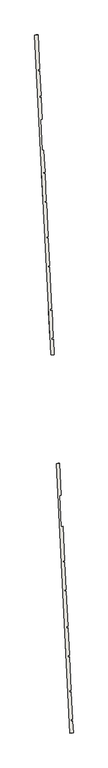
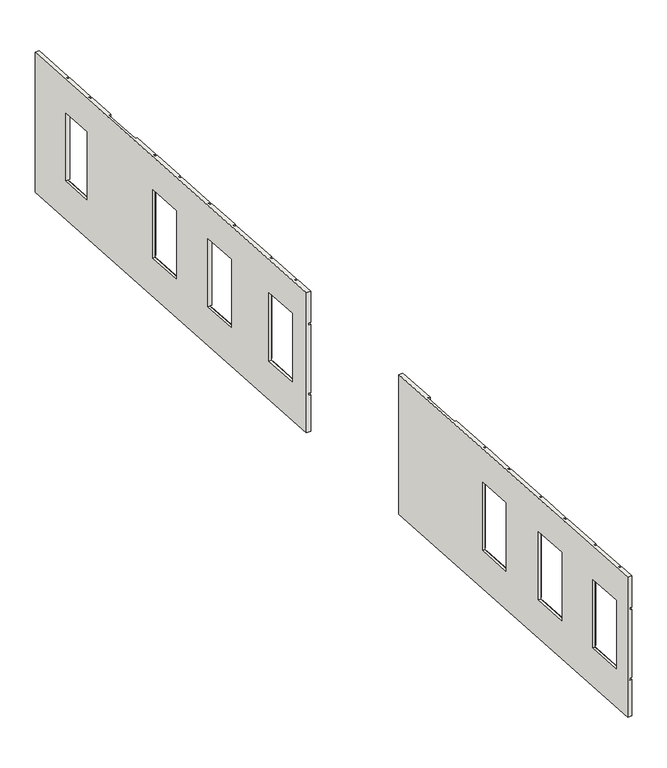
"""IFC4 building model written with IfcOpenShell, lengths in millimetres: wall geometry, kamposite6 : kamposite."""

from ifc_helpers import new_model, si_unit, origin, place, context, project, spatial, faceted_brep, source, transform, mapped, element, save


def wall_fe2dcc62(model_context):
    return source(origin(), model_context, "Body", "Brep", [
        faceted_brep([(13372.7715568, -13203.3324529, 16500.0), (13353.306831, -12820.9275904, 16500.0), (13353.306831, -12820.9275904, 17411.5733633), (13372.7715568, -13203.3324529, 17411.5733633), (13353.306831, -12820.9275904, 20000.0), (13372.7715568, -13203.3324529, 20000.0), (13372.7715568, -13203.3324529, 19220.5733633), (13353.306831, -12820.9275904, 19220.5733633), (13094.4833823, -7736.0706906, 20000.0), (13139.1735864, -8614.0564136, 20000.0), (13139.1735864, -8614.0564136, 19220.5733633), (13094.4833823, -7736.0706906, 19220.5733633), (13141.7153374, -8663.9917669, 20000.0), (13199.2035253, -9793.4072435, 20000.0), (13199.2035253, -9793.4072435, 19220.5733633), (13141.7153374, -8663.9917669, 19220.5733633), (13201.7452764, -9843.3425967, 20000.0), (13246.4354805, -10721.3283197, 20000.0), (13246.4354805, -10721.3283197, 19220.5733633), (13201.7452764, -9843.3425967, 19220.5733633), (13248.9772315, -10771.2636729, 20000.0), (13303.5331248, -11843.0711609, 20000.0), (13303.5331248, -11843.0711609, 19220.5733633), (13248.9772315, -10771.2636729, 19220.5733633), (13306.0748759, -11893.0065142, 20000.0), (13350.76508, -12770.9922372, 20000.0), (13350.76508, -12770.9922372, 19220.5733633), (13306.0748759, -11893.0065142, 19220.5733633), (13139.1735864, -8614.0564136, 16500.0), (13094.4833823, -7736.0706906, 16500.0), (13094.4833823, -7736.0706906, 17411.5733633), (13139.1735864, -8614.0564136, 17411.5733633), (13199.2035253, -9793.4072435, 16500.0), (13141.7153374, -8663.9917669, 16500.0), (13141.7153374, -8663.9917669, 17411.5733633), (13199.2035253, -9793.4072435, 17411.5733633), (13246.4354805, -10721.3283197, 16500.0), (13201.7452764, -9843.3425967, 16500.0), (13201.7452764, -9843.3425967, 17411.5733633), (13246.4354805, -10721.3283197, 17411.5733633), (13303.5331248, -11843.0711609, 16500.0), (13248.9772315, -10771.2636729, 16500.0), (13248.9772315, -10771.2636729, 17411.5733633), (13303.5331248, -11843.0711609, 17411.5733633), (13350.76508, -12770.9922372, 16500.0), (13306.0748759, -11893.0065142, 16500.0), (13306.0748759, -11893.0065142, 17411.5733633), (13350.76508, -12770.9922372, 17411.5733633), (13350.6602996, -12768.9337164, 19170.0), (13306.0748759, -11893.0065142, 19170.0), (13306.0748759, -11893.0065142, 19170.5733633), (13350.76508, -12770.9922372, 19170.5733633), (13350.76508, -12770.9922372, 17461.5733633), (13350.6602996, -12768.9337164, 17461.5733633), (13246.4354805, -10721.3283197, 19170.0), (13201.7452764, -9843.3425967, 19170.0), (13201.7452764, -9843.3425967, 19170.5733633), (13246.4354805, -10721.3283197, 19170.5733633), (13139.1735864, -8614.0564136, 19170.0), (13094.4833823, -7736.0706906, 19170.0), (13094.4833823, -7736.0706906, 19170.5733633), (13139.1735864, -8614.0564136, 19170.5733633), (12933.6170031, -4575.6827045, 16500.0), (12933.6170031, -4575.6827045, 17411.5733633), (12985.7398324, -5599.6901091, 17411.5733633), (12985.7398324, -5599.6901091, 16500.0), (12933.6170031, -4575.6827045, 19220.5733633), (12933.6170031, -4575.6827045, 20000.0), (12985.7398324, -5599.6901091, 20000.0), (12985.7398324, -5599.6901091, 19220.5733633), (12933.6170031, -4575.6827045, 17461.5733633), (12933.6170031, -4575.6827045, 19170.5733633), (12985.7398324, -5599.6901091, 19170.5733633), (12985.7398324, -5599.6901091, 17461.5733633), (13091.9416312, -7686.1353374, 17411.5733633), (13091.9416312, -7686.1353374, 16500.0), (13036.3776474, -6594.5228575, 16500.0), (13036.3776474, -6594.5228575, 17411.5733633), (13091.9416312, -7686.1353374, 20000.0), (13091.9416312, -7686.1353374, 19220.5733633), (13036.3776474, -6594.5228575, 19220.5733633), (13036.3776474, -6594.5228575, 20000.0), (13091.9416312, -7686.1353374, 19170.5733633), (13091.9416312, -7686.1353374, 17461.5733633), (13036.3776474, -6594.5228575, 17461.5733633), (13036.3776474, -6594.5228575, 19170.5733633), (13199.2035253, -9793.4072435, 19170.5733633), (13199.2035253, -9793.4072435, 17461.5733633), (13141.7153374, -8663.9917669, 17461.5733633), (13141.7153374, -8663.9917669, 19170.5733633), (13303.5331248, -11843.0711609, 19170.5733633), (13303.5331248, -11843.0711609, 17461.5733633), (13248.9772315, -10771.2636729, 17461.5733633), (13248.9772315, -10771.2636729, 19170.5733633), (13372.7715568, -13203.3324529, 19170.5733633), (13372.7715568, -13203.3324529, 17461.5733633), (13353.306831, -12820.9275904, 17461.5733633), (13353.306831, -12820.9275904, 19170.5733633), (12833.7462967, -4580.7662066, 20000.0), (12833.7462967, -4580.7662066, 16500.0), (13272.9008504, -13208.415955, 16500.0), (13272.9008504, -13208.415955, 20000.0), (13206.0547747, -11895.1550017, 19170.0), (13250.7895931, -12774.0172185, 19170.0), (13250.7895931, -12774.0172185, 17460.0), (13206.0547747, -11895.1550017, 17460.0), (13101.8429819, -9847.8055195, 19170.0), (13146.5778003, -10726.6677363, 19170.0), (13146.5778003, -10726.6677363, 17460.0), (13101.8429819, -9847.8055195, 17460.0), (12994.5810878, -7740.5336135, 19170.0), (13039.3159062, -8619.3958302, 19170.0), (13039.3159062, -8619.3958302, 17460.0), (12994.5810878, -7740.5336135, 17460.0), (13303.3714778, -12823.4693414, 20000.0), (13300.8297268, -12773.5339882, 20000.0), (13256.1395226, -11895.5482652, 20000.0), (13253.5977716, -11845.612912, 20000.0), (13199.0418783, -10773.805424, 20000.0), (13196.5001272, -10723.8700707, 20000.0), (13151.8099231, -9845.8843478, 20000.0), (13149.2681721, -9795.9489945, 20000.0), (13091.7799842, -8666.5335179, 20000.0), (13089.2382332, -8616.5981647, 20000.0), (13044.5480291, -7738.6124417, 20000.0), (13042.006278, -7688.6770885, 20000.0), (12986.4422941, -6597.0646086, 20000.0), (12935.8044792, -5602.2318601, 20000.0), (13322.8362036, -13205.874204, 17411.5733633), (13322.8362036, -13205.874204, 17461.5733633), (13322.8362036, -13205.874204, 19170.5733633), (13322.8362036, -13205.874204, 19220.5733633), (12935.8044792, -5602.2318601, 16500.0), (12986.4422941, -6597.0646086, 16500.0), (13042.006278, -7688.6770885, 16500.0), (13044.5480291, -7738.6124417, 16500.0), (13089.2382332, -8616.5981647, 16500.0), (13091.7799842, -8666.5335179, 16500.0), (13149.2681721, -9795.9489945, 16500.0), (13151.8099231, -9845.8843478, 16500.0), (13196.5001272, -10723.8700707, 16500.0), (13199.0418783, -10773.805424, 16500.0), (13253.5977716, -11845.612912, 16500.0), (13256.1395226, -11895.5482652, 16500.0), (13300.8297268, -12773.5339882, 16500.0), (13303.3714778, -12823.4693414, 16500.0), (12883.6816499, -4578.2244556, 19220.5733633), (12883.6816499, -4578.2244556, 19170.5733633), (12883.6816499, -4578.2244556, 17461.5733633), (12883.6816499, -4578.2244556, 17411.5733633), (13255.9901279, -11892.6132507, 17460.0), (13255.9901279, -11892.6132507, 19170.0), (13300.7249463, -12771.4754674, 17460.0), (13300.7249463, -12771.4754674, 17461.5733633), (13256.1395226, -11895.5482652, 19170.0), (13151.7783351, -9845.2637685, 17460.0), (13151.7783351, -9845.2637685, 19170.0), (13196.5131535, -10724.1259852, 17460.0), (13196.5131535, -10724.1259852, 19170.0), (13151.8099231, -9845.8843478, 19170.0), (13196.5001272, -10723.8700707, 19170.0), (13044.5164411, -7737.9918624, 17460.0), (13044.5164411, -7737.9918624, 19170.0), (13089.2512594, -8616.8540792, 17460.0), (13089.2512594, -8616.8540792, 19170.0), (13044.5480291, -7738.6124417, 19170.0), (13089.2382332, -8616.5981647, 19170.0), (13044.5480291, -7738.6124417, 19220.5733633), (13089.2382332, -8616.5981647, 19220.5733633), (13091.7799842, -8666.5335179, 19220.5733633), (13149.2681721, -9795.9489945, 19220.5733633), (13151.8099231, -9845.8843478, 19220.5733633), (13196.5001272, -10723.8700707, 19220.5733633), (13199.0418783, -10773.805424, 19220.5733633), (13253.5977716, -11845.612912, 19220.5733633), (13256.1395226, -11895.5482652, 19220.5733633), (13300.8297268, -12773.5339882, 19220.5733633), (13303.3714778, -12823.4693414, 19220.5733633), (13303.3714778, -12823.4693414, 19170.5733633), (13303.3714778, -12823.4693414, 17461.5733633), (13303.3714778, -12823.4693414, 17411.5733633), (13300.8297268, -12773.5339882, 17411.5733633), (13256.1395226, -11895.5482652, 17411.5733633), (13253.5977716, -11845.612912, 17411.5733633), (13199.0418783, -10773.805424, 17411.5733633), (13196.5001272, -10723.8700707, 17411.5733633), (13151.8099231, -9845.8843478, 17411.5733633), (13149.2681721, -9795.9489945, 17411.5733633), (13091.7799842, -8666.5335179, 17411.5733633), (13089.2382332, -8616.5981647, 17411.5733633), (13044.5480291, -7738.6124417, 17411.5733633), (13042.006278, -7688.6770885, 17411.5733633), (12986.4422941, -6597.0646086, 17411.5733633), (12935.8044792, -5602.2318601, 17411.5733633), (12935.8044792, -5602.2318601, 17461.5733633), (12935.8044792, -5602.2318601, 19170.5733633), (12935.8044792, -5602.2318601, 19220.5733633), (12986.4422941, -6597.0646086, 19220.5733633), (13042.006278, -7688.6770885, 19220.5733633), (13300.8297268, -12773.5339882, 17461.5733633), (13300.8297268, -12773.5339882, 19170.5733633), (13256.1395226, -11895.5482652, 19170.5733633), (13196.5001272, -10723.8700707, 19170.5733633), (13151.8099231, -9845.8843478, 19170.5733633), (13089.2382332, -8616.5981647, 19170.5733633), (13044.5480291, -7738.6124417, 19170.5733633), (13091.7799842, -8666.5335179, 19170.5733633), (13091.7799842, -8666.5335179, 17461.5733633), (13149.2681721, -9795.9489945, 17461.5733633), (13149.2681721, -9795.9489945, 19170.5733633), (13199.0418783, -10773.805424, 19170.5733633), (13199.0418783, -10773.805424, 17461.5733633), (13253.5977716, -11845.612912, 17461.5733633), (13253.5977716, -11845.612912, 19170.5733633), (13042.006278, -7688.6770885, 19170.5733633), (12986.4422941, -6597.0646086, 19170.5733633), (12986.4422941, -6597.0646086, 17461.5733633), (13042.006278, -7688.6770885, 17461.5733633)], [[[0, 1, 2, 3]], [[4, 5, 6, 7]], [[8, 9, 10, 11]], [[12, 13, 14, 15]], [[16, 17, 18, 19]], [[20, 21, 22, 23]], [[24, 25, 26, 27]], [[28, 29, 30, 31]], [[32, 33, 34, 35]], [[36, 37, 38, 39]], [[40, 41, 42, 43]], [[44, 45, 46, 47]], [[48, 49, 50, 51, 52, 53]], [[54, 55, 56, 57]], [[58, 59, 60, 61]], [[62, 63, 64, 65]], [[66, 67, 68, 69]], [[70, 71, 72, 73]], [[74, 75, 76, 77]], [[78, 79, 80, 81]], [[82, 83, 84, 85]], [[86, 87, 88, 89]], [[90, 91, 92, 93]], [[94, 95, 96, 97]], [[98, 99, 100, 101], [102, 103, 104, 105], [106, 107, 108, 109], [110, 111, 112, 113]], [[98, 101, 5, 4, 114, 115, 25, 24, 116, 117, 21, 20, 118, 119, 17, 16, 120, 121, 13, 12, 122, 123, 9, 8, 124, 125, 78, 81, 126, 127, 68, 67]], [[101, 100, 0, 3, 128, 129, 95, 94, 130, 131, 6, 5]], [[100, 99, 62, 65, 132, 133, 76, 75, 134, 135, 29, 28, 136, 137, 33, 32, 138, 139, 37, 36, 140, 141, 41, 40, 142, 143, 45, 44, 144, 145, 1, 0]], [[99, 98, 67, 66, 146, 147, 71, 70, 148, 149, 63, 62]], [[102, 105, 150, 151]], [[105, 104, 152, 150]], [[104, 103, 48, 53, 153, 152]], [[103, 102, 151, 154, 49, 48]], [[106, 109, 155, 156]], [[109, 108, 157, 155]], [[108, 107, 158, 157]], [[107, 106, 156, 159, 55, 54, 160, 158]], [[110, 113, 161, 162]], [[113, 112, 163, 161]], [[112, 111, 164, 163]], [[111, 110, 162, 165, 59, 58, 166, 164]], [[125, 124, 167, 168, 123, 122, 169, 170, 121, 120, 171, 172, 119, 118, 173, 174, 117, 116, 175, 176, 115, 114, 177, 131, 130, 178, 179, 129, 128, 180, 145, 144, 181, 182, 143, 142, 183, 184, 141, 140, 185, 186, 139, 138, 187, 188, 137, 136, 189, 190, 135, 134, 191, 192, 133, 132, 193, 149, 148, 194, 195, 147, 146, 196, 127, 126, 197, 198], [154, 151, 150, 152, 153, 199, 200, 201], [159, 156, 155, 157, 158, 160, 202, 203], [165, 162, 161, 163, 164, 166, 204, 205], [206, 207, 208, 209], [210, 211, 212, 213], [214, 215, 216, 217]], [[124, 8, 11, 167]], [[29, 135, 190, 30]], [[59, 165, 205, 60]], [[83, 82, 214, 217]], [[78, 125, 198, 79]], [[134, 75, 74, 191]], [[89, 88, 207, 206]], [[122, 12, 15, 169]], [[33, 137, 188, 34]], [[9, 123, 168, 10]], [[136, 28, 31, 189]], [[166, 58, 61, 204]], [[120, 16, 19, 171]], [[37, 139, 186, 38]], [[55, 159, 203, 56]], [[87, 86, 209, 208]], [[13, 121, 170, 14]], [[138, 32, 35, 187]], [[93, 92, 211, 210]], [[118, 20, 23, 173]], [[41, 141, 184, 42]], [[17, 119, 172, 18]], [[140, 36, 39, 185]], [[160, 54, 57, 202]], [[116, 24, 27, 175]], [[45, 143, 182, 46]], [[49, 154, 201, 50]], [[91, 90, 213, 212]], [[21, 117, 174, 22]], [[142, 40, 43, 183]], [[97, 96, 179, 178]], [[114, 4, 7, 177]], [[1, 145, 180, 2]], [[52, 51, 200, 199]], [[25, 115, 176, 26]], [[144, 44, 47, 181]], [[148, 70, 73, 194]], [[199, 153, 53, 52]], [[208, 207, 88, 87]], [[212, 211, 92, 91]], [[83, 217, 216, 84]], [[129, 179, 96, 95]], [[63, 149, 193, 64]], [[182, 181, 47, 46]], [[184, 183, 43, 42]], [[186, 185, 39, 38]], [[188, 187, 35, 34]], [[190, 189, 31, 30]], [[191, 74, 77, 192]], [[180, 128, 3, 2]], [[146, 66, 69, 196]], [[168, 167, 11, 10]], [[170, 169, 15, 14]], [[172, 171, 19, 18]], [[174, 173, 23, 22]], [[176, 175, 27, 26]], [[79, 198, 197, 80]], [[131, 177, 7, 6]], [[71, 147, 195, 72]], [[201, 200, 51, 50]], [[203, 202, 57, 56]], [[205, 204, 61, 60]], [[206, 209, 86, 89]], [[210, 213, 90, 93]], [[214, 82, 85, 215]], [[178, 130, 94, 97]], [[133, 192, 77, 76]], [[197, 126, 81, 80]], [[216, 215, 85, 84]], [[193, 132, 65, 64]], [[195, 194, 73, 72]], [[127, 196, 69, 68]]]),
        faceted_brep([(12334.7985206, 7188.7316375, 19160.0), (12294.384679, 7982.7037538, 19160.0), (12294.384679, 7982.7037538, 17461.5733633), (12294.2460013, 7985.4282216, 17461.5733633), (12294.2460013, 7985.4282216, 19170.5733633), (12334.8694038, 7187.3390638, 19170.5733633), (12334.8694038, 7187.3390638, 17461.5733633), (12334.7985206, 7188.7316375, 17461.5733633), (12731.730894, -609.4192918, 20000.0), (12756.4224718, -1094.5111191, 20000.0), (12756.4224718, -1094.5111191, 19220.5733633), (12731.730894, -609.4192918, 19220.5733633), (12684.4989388, 318.5017844, 20000.0), (12729.1891429, -559.4839386, 20000.0), (12729.1891429, -559.4839386, 19220.5733633), (12684.4989388, 318.5017844, 19220.5733633), (12614.0478206, 1702.5875625, 20000.0), (12681.9571878, 368.4371376, 20000.0), (12681.9571878, 368.4371376, 19220.5733633), (12614.0478206, 1702.5875625, 19220.5733633), (12566.8158655, 2630.5086387, 20000.0), (12611.5060696, 1752.5229157, 20000.0), (12611.5060696, 1752.5229157, 19220.5733633), (12566.8158655, 2630.5086387, 19220.5733633), (12509.0735025, 3764.9176506, 20000.0), (12564.2741144, 2680.4439919, 20000.0), (12564.2741144, 2680.4439919, 19220.5733633), (12509.0735025, 3764.9176506, 19220.5733633), (12461.8415473, 4692.8387269, 20000.0), (12506.5317514, 3814.8530039, 20000.0), (12506.5317514, 3814.8530039, 19220.5733633), (12461.8415473, 4692.8387269, 19220.5733633), (12235.5361304, 9138.844937, 20000.0), (12291.7042503, 8035.3635748, 20000.0), (12291.7042503, 8035.3635748, 19220.5733633), (12235.5361304, 9138.844937, 19220.5733633), (12294.2460013, 7985.4282216, 20000.0), (12334.8694038, 7187.3390638, 20000.0), (12334.8694038, 7187.3390638, 19220.5733633), (12294.2460013, 7985.4282216, 19220.5733633), (12756.4224718, -1094.5111191, 16500.0), (12731.730894, -609.4192918, 16500.0), (12731.730894, -609.4192918, 17411.5733633), (12756.4224718, -1094.5111191, 17411.5733633), (12729.1891429, -559.4839386, 16500.0), (12684.4989388, 318.5017844, 16500.0), (12684.4989388, 318.5017844, 17411.5733633), (12729.1891429, -559.4839386, 17411.5733633), (12681.9571878, 368.4371376, 16500.0), (12614.0478206, 1702.5875625, 16500.0), (12614.0478206, 1702.5875625, 17411.5733633), (12681.9571878, 368.4371376, 17411.5733633), (12611.5060696, 1752.5229157, 16500.0), (12566.8158655, 2630.5086387, 16500.0), (12566.8158655, 2630.5086387, 17411.5733633), (12611.5060696, 1752.5229157, 17411.5733633), (12564.2741144, 2680.4439919, 16500.0), (12509.0735025, 3764.9176506, 16500.0), (12509.0735025, 3764.9176506, 17411.5733633), (12564.2741144, 2680.4439919, 17411.5733633), (12506.5317514, 3814.8530039, 16500.0), (12461.8415473, 4692.8387269, 16500.0), (12461.8415473, 4692.8387269, 17411.5733633), (12506.5317514, 3814.8530039, 17411.5733633), (12291.7042503, 8035.3635748, 16500.0), (12235.5361304, 9138.844937, 16500.0), (12235.5361304, 9138.844937, 19170.5733633), (12291.7042503, 8035.3635748, 19170.5733633), (12291.7042503, 8035.3635748, 17461.5733633), (12235.558487, 9138.4057197, 17461.5733633), (12235.558487, 9138.4057197, 17411.5733633), (12291.7042503, 8035.3635748, 17411.5733633), (12334.8694038, 7187.3390638, 16500.0), (12294.2460013, 7985.4282216, 16500.0), (12294.2460013, 7985.4282216, 17411.5733633), (12334.8694038, 7187.3390638, 17411.5733633), (12729.1891429, -559.4839386, 19170.0), (12684.4989388, 318.5017844, 19170.0), (12684.4989388, 318.5017844, 19170.5733633), (12729.1891429, -559.4839386, 19170.5733633), (12611.5060696, 1752.5229157, 19170.0), (12567.0384526, 2626.1356827, 19170.0), (12567.0384526, 2626.1356827, 17461.5733633), (12566.8158655, 2630.5086387, 17461.5733633), (12566.8158655, 2630.5086387, 19170.5733633), (12611.5060696, 1752.5229157, 19170.5733633), (12506.5317514, 3814.8530039, 19170.0), (12461.8415473, 4692.8387269, 19170.0), (12461.8415473, 4692.8387269, 19170.5733633), (12506.5317514, 3814.8530039, 19170.5733633), (12756.4224718, -1094.5111191, 19170.5733633), (12756.4224718, -1094.5111191, 17461.5733633), (12731.730894, -609.4192918, 17461.5733633), (12731.730894, -609.4192918, 19170.5733633), (12681.9571878, 368.4371376, 19170.5733633), (12681.9571878, 368.4371376, 17461.5733633), (12614.0478206, 1702.5875625, 17461.5733633), (12614.0478206, 1702.5875625, 19170.5733633), (12564.2741144, 2680.4439919, 19170.5733633), (12564.2741144, 2680.4439919, 17461.5733633), (12509.0735025, 3764.9176506, 17461.5733633), (12509.0735025, 3764.9176506, 19170.5733633), (12459.2997963, 4742.7740801, 17411.5733633), (12459.2997963, 4742.7740801, 16500.0), (12423.674383, 5442.6725211, 16500.0), (12423.674383, 5442.6725211, 17411.5733633), (12459.2997963, 4742.7740801, 19170.5733633), (12459.2997963, 4742.7740801, 17461.5733633), (12423.674383, 5442.6725211, 17461.5733633), (12423.674383, 5442.6725211, 19170.5733633), (12459.2997963, 4742.7740801, 20000.0), (12459.2997963, 4742.7740801, 19220.5733633), (12423.674383, 5442.6725211, 19220.5733633), (12423.674383, 5442.6725211, 20000.0), (12337.4111548, 7137.4037105, 16500.0), (12337.4111548, 7137.4037105, 17411.5733633), (12373.0365681, 6437.5052695, 17411.5733633), (12373.0365681, 6437.5052695, 16500.0), (12337.4111548, 7137.4037105, 17461.5733633), (12337.4111548, 7137.4037105, 19170.5733633), (12373.0365681, 6437.5052695, 19170.5733633), (12373.0365681, 6437.5052695, 17461.5733633), (12337.4111548, 7137.4037105, 19220.5733633), (12337.4111548, 7137.4037105, 20000.0), (12373.0365681, 6437.5052695, 20000.0), (12373.0365681, 6437.5052695, 19220.5733633), (12135.665424, 9133.7614349, 20000.0), (12135.665424, 9133.7614349, 16500.0), (12656.5517653, -1099.5946212, 16500.0), (12656.5517653, -1099.5946212, 20000.0), (12194.5139726, 7977.6202517, 19160.0), (12234.9278142, 7183.6481354, 19160.0), (12234.9278142, 7183.6481354, 17460.0), (12194.5139726, 7977.6202517, 17460.0), (12584.5966444, 314.0388616, 19170.0), (12629.3314627, -564.8233551, 19170.0), (12629.3314627, -564.8233551, 17460.0), (12584.5966444, 314.0388616, 17460.0), (12467.1677461, 2621.0521806, 19170.0), (12511.9025645, 1742.1899638, 19170.0), (12511.9025645, 1742.1899638, 17460.0), (12467.1677461, 2621.0521806, 17460.0), (12361.9392529, 4688.375804, 19170.0), (12406.6740712, 3809.5135873, 19170.0), (12406.6740712, 3809.5135873, 17460.0), (12361.9392529, 4688.375804, 17460.0), (12681.7955408, -611.9610428, 20000.0), (12679.2537897, -562.0256896, 20000.0), (12634.5635856, 315.9600334, 20000.0), (12632.0218345, 365.8953866, 20000.0), (12564.1124674, 1700.0458114, 20000.0), (12561.5707163, 1749.9811647, 20000.0), (12516.8805122, 2627.9668877, 20000.0), (12514.3387612, 2677.9022409, 20000.0), (12459.1381493, 3762.3758996, 20000.0), (12456.5963982, 3812.3112528, 20000.0), (12411.9061941, 4690.2969758, 20000.0), (12409.364443, 4740.232329, 20000.0), (12373.7390298, 5440.13077, 20000.0), (12323.1012148, 6434.9635185, 20000.0), (12287.4758016, 7134.8619595, 20000.0), (12284.9340506, 7184.7973127, 20000.0), (12244.3106481, 7982.8864705, 20000.0), (12241.7688971, 8032.8218238, 20000.0), (12706.4871185, -1097.0528701, 17411.5733633), (12706.4871185, -1097.0528701, 17461.5733633), (12706.4871185, -1097.0528701, 19170.5733633), (12706.4871185, -1097.0528701, 19220.5733633), (12241.7688971, 8032.8218238, 16500.0), (12244.3106481, 7982.8864705, 16500.0), (12284.9340506, 7184.7973127, 16500.0), (12287.4758016, 7134.8619595, 16500.0), (12323.1012148, 6434.9635185, 16500.0), (12373.7390298, 5440.13077, 16500.0), (12409.364443, 4740.232329, 16500.0), (12411.9061941, 4690.2969758, 16500.0), (12456.5963982, 3812.3112528, 16500.0), (12459.1381493, 3762.3758996, 16500.0), (12514.3387612, 2677.9022409, 16500.0), (12516.8805122, 2627.9668877, 16500.0), (12561.5707163, 1749.9811647, 16500.0), (12564.1124674, 1700.0458114, 16500.0), (12632.0218345, 365.8953866, 16500.0), (12634.5635856, 315.9600334, 16500.0), (12679.2537897, -562.0256896, 16500.0), (12681.7955408, -611.9610428, 16500.0), (12185.6007772, 9136.3031859, 19220.5733633), (12185.6007772, 9136.3031859, 19170.5733633), (12244.4493258, 7980.1620027, 17460.0), (12244.4493258, 7980.1620027, 17461.5733633), (12284.8631674, 7186.1898865, 17460.0), (12284.8631674, 7186.1898865, 17461.5733633), (12634.5319976, 316.5806127, 17460.0), (12634.5319976, 316.5806127, 19170.0), (12679.266816, -562.2816041, 17460.0), (12679.266816, -562.2816041, 19170.0), (12634.5635856, 315.9600334, 19170.0), (12679.2537897, -562.0256896, 19170.0), (12517.1030993, 2623.5939316, 17460.0), (12517.1030993, 2623.5939316, 17461.5733633), (12561.8379177, 1744.7317149, 17460.0), (12561.8379177, 1744.7317149, 19170.0), (12561.5707163, 1749.9811647, 19170.0), (12411.8746061, 4690.9175551, 17460.0), (12411.8746061, 4690.9175551, 19170.0), (12456.6094245, 3812.0553383, 17460.0), (12456.6094245, 3812.0553383, 19170.0), (12411.9061941, 4690.2969758, 19170.0), (12456.5963982, 3812.3112528, 19170.0), (12634.5635856, 315.9600334, 19220.5733633), (12679.2537897, -562.0256896, 19220.5733633), (12681.7955408, -611.9610428, 19220.5733633), (12681.7955408, -611.9610428, 19170.5733633), (12681.7955408, -611.9610428, 17461.5733633), (12681.7955408, -611.9610428, 17411.5733633), (12679.2537897, -562.0256896, 17411.5733633), (12634.5635856, 315.9600334, 17411.5733633), (12632.0218345, 365.8953866, 17411.5733633), (12564.1124674, 1700.0458114, 17411.5733633), (12561.5707163, 1749.9811647, 17411.5733633), (12516.8805122, 2627.9668877, 17411.5733633), (12514.3387612, 2677.9022409, 17411.5733633), (12459.1381493, 3762.3758996, 17411.5733633), (12456.5963982, 3812.3112528, 17411.5733633), (12411.9061941, 4690.2969758, 17411.5733633), (12409.364443, 4740.232329, 17411.5733633), (12373.7390298, 5440.13077, 17411.5733633), (12323.1012148, 6434.9635185, 17411.5733633), (12287.4758016, 7134.8619595, 17411.5733633), (12284.9340506, 7184.7973127, 17411.5733633), (12244.3106481, 7982.8864705, 17411.5733633), (12241.7688971, 8032.8218238, 17411.5733633), (12185.6231337, 9135.8639687, 17411.5733633), (12185.6231337, 9135.8639687, 17461.5733633), (12241.7688971, 8032.8218238, 17461.5733633), (12241.7688971, 8032.8218238, 19170.5733633), (12241.7688971, 8032.8218238, 19220.5733633), (12244.3106481, 7982.8864705, 19220.5733633), (12284.9340506, 7184.7973127, 19220.5733633), (12287.4758016, 7134.8619595, 19220.5733633), (12323.1012148, 6434.9635185, 19220.5733633), (12373.7390298, 5440.13077, 19220.5733633), (12409.364443, 4740.232329, 19220.5733633), (12411.9061941, 4690.2969758, 19220.5733633), (12456.5963982, 3812.3112528, 19220.5733633), (12459.1381493, 3762.3758996, 19220.5733633), (12514.3387612, 2677.9022409, 19220.5733633), (12516.8805122, 2627.9668877, 19220.5733633), (12561.5707163, 1749.9811647, 19220.5733633), (12564.1124674, 1700.0458114, 19220.5733633), (12632.0218345, 365.8953866, 19220.5733633), (12679.2537897, -562.0256896, 19170.5733633), (12634.5635856, 315.9600334, 19170.5733633), (12561.5707163, 1749.9811647, 19170.5733633), (12516.8805122, 2627.9668877, 19170.5733633), (12516.8805122, 2627.9668877, 17461.5733633), (12456.5963982, 3812.3112528, 19170.5733633), (12411.9061941, 4690.2969758, 19170.5733633), (12632.0218345, 365.8953866, 17461.5733633), (12632.0218345, 365.8953866, 19170.5733633), (12564.1124674, 1700.0458114, 19170.5733633), (12564.1124674, 1700.0458114, 17461.5733633), (12514.3387612, 2677.9022409, 17461.5733633), (12514.3387612, 2677.9022409, 19170.5733633), (12459.1381493, 3762.3758996, 19170.5733633), (12459.1381493, 3762.3758996, 17461.5733633), (12409.364443, 4740.232329, 17461.5733633), (12409.364443, 4740.232329, 19170.5733633), (12373.7390298, 5440.13077, 19170.5733633), (12373.7390298, 5440.13077, 17461.5733633), (12244.3106481, 7982.8864705, 19170.5733633), (12244.3106481, 7982.8864705, 17461.5733633), (12284.9340506, 7184.7973127, 17461.5733633), (12284.9340506, 7184.7973127, 19170.5733633), (12287.4758016, 7134.8619595, 17461.5733633), (12323.1012148, 6434.9635185, 17461.5733633), (12323.1012148, 6434.9635185, 19170.5733633), (12287.4758016, 7134.8619595, 19170.5733633)], [[[0, 1, 2, 3, 4, 5, 6, 7]], [[8, 9, 10, 11]], [[12, 13, 14, 15]], [[16, 17, 18, 19]], [[20, 21, 22, 23]], [[24, 25, 26, 27]], [[28, 29, 30, 31]], [[32, 33, 34, 35]], [[36, 37, 38, 39]], [[40, 41, 42, 43]], [[44, 45, 46, 47]], [[48, 49, 50, 51]], [[52, 53, 54, 55]], [[56, 57, 58, 59]], [[60, 61, 62, 63]], [[64, 65, 66, 67, 68, 69, 70, 71]], [[72, 73, 74, 75]], [[76, 77, 78, 79]], [[80, 81, 82, 83, 84, 85]], [[86, 87, 88, 89]], [[90, 91, 92, 93]], [[94, 95, 96, 97]], [[98, 99, 100, 101]], [[102, 103, 104, 105]], [[106, 107, 108, 109]], [[110, 111, 112, 113]], [[114, 115, 116, 117]], [[118, 119, 120, 121]], [[122, 123, 124, 125]], [[126, 127, 128, 129], [130, 131, 132, 133], [134, 135, 136, 137], [138, 139, 140, 141], [142, 143, 144, 145]], [[126, 129, 9, 8, 146, 147, 13, 12, 148, 149, 17, 16, 150, 151, 21, 20, 152, 153, 25, 24, 154, 155, 29, 28, 156, 157, 110, 113, 158, 159, 124, 123, 160, 161, 37, 36, 162, 163, 33, 32]], [[129, 128, 40, 43, 164, 165, 91, 90, 166, 167, 10, 9]], [[128, 127, 65, 64, 168, 169, 73, 72, 170, 171, 114, 117, 172, 173, 104, 103, 174, 175, 61, 60, 176, 177, 57, 56, 178, 179, 53, 52, 180, 181, 49, 48, 182, 183, 45, 44, 184, 185, 41, 40]], [[127, 126, 32, 35, 186, 187, 66, 65]], [[130, 133, 188, 189, 2, 1]], [[133, 132, 190, 188]], [[132, 131, 0, 7, 191, 190]], [[1, 0, 131, 130]], [[134, 137, 192, 193]], [[137, 136, 194, 192]], [[136, 135, 195, 194]], [[135, 134, 193, 196, 77, 76, 197, 195]], [[138, 141, 198, 199, 82, 81]], [[141, 140, 200, 198]], [[140, 139, 201, 200]], [[139, 138, 81, 80, 202, 201]], [[142, 145, 203, 204]], [[145, 144, 205, 203]], [[144, 143, 206, 205]], [[143, 142, 204, 207, 87, 86, 208, 206]], [[149, 148, 209, 210, 147, 146, 211, 167, 166, 212, 213, 165, 164, 214, 185, 184, 215, 216, 183, 182, 217, 218, 181, 180, 219, 220, 179, 178, 221, 222, 177, 176, 223, 224, 175, 174, 225, 226, 173, 172, 227, 228, 171, 170, 229, 230, 169, 168, 231, 232, 233, 234, 235, 187, 186, 236, 163, 162, 237, 238, 161, 160, 239, 240, 159, 158, 241, 242, 157, 156, 243, 244, 155, 154, 245, 246, 153, 152, 247, 248, 151, 150, 249, 250], [196, 193, 192, 194, 195, 197, 251, 252], [201, 202, 253, 254, 255, 199, 198, 200], [207, 204, 203, 205, 206, 208, 256, 257], [258, 259, 260, 261], [262, 263, 264, 265], [266, 267, 268, 269], [270, 271, 189, 188, 190, 191, 272, 273], [274, 275, 276, 277]], [[148, 12, 15, 209]], [[45, 183, 216, 46]], [[77, 196, 252, 78]], [[95, 94, 259, 258]], [[17, 149, 250, 18]], [[182, 48, 51, 217]], [[93, 92, 213, 212]], [[146, 8, 11, 211]], [[41, 185, 214, 42]], [[13, 147, 210, 14]], [[184, 44, 47, 215]], [[197, 76, 79, 251]], [[84, 83, 255, 254]], [[152, 20, 23, 247]], [[53, 179, 220, 54]], [[99, 98, 263, 262]], [[25, 153, 246, 26]], [[178, 56, 59, 221]], [[97, 96, 261, 260]], [[150, 16, 19, 249]], [[49, 181, 218, 50]], [[21, 151, 248, 22]], [[180, 52, 55, 219]], [[202, 80, 85, 253]], [[156, 28, 31, 243]], [[61, 175, 224, 62]], [[87, 207, 257, 88]], [[107, 106, 267, 266]], [[110, 157, 242, 111]], [[174, 103, 102, 225]], [[101, 100, 265, 264]], [[154, 24, 27, 245]], [[57, 177, 222, 58]], [[29, 155, 244, 30]], [[176, 60, 63, 223]], [[208, 86, 89, 256]], [[4, 3, 271, 270]], [[162, 36, 39, 237]], [[73, 169, 230, 74]], [[68, 67, 235, 234]], [[33, 163, 236, 34]], [[168, 64, 71, 231]], [[119, 118, 274, 277]], [[160, 123, 122, 239]], [[114, 171, 228, 115]], [[6, 5, 273, 272]], [[37, 161, 238, 38]], [[170, 72, 75, 229]], [[214, 164, 43, 42]], [[216, 215, 47, 46]], [[218, 217, 51, 50]], [[220, 219, 55, 54]], [[222, 221, 59, 58]], [[224, 223, 63, 62]], [[230, 229, 75, 74]], [[225, 102, 105, 226]], [[115, 228, 227, 116]], [[70, 232, 231, 71]], [[165, 213, 92, 91]], [[199, 255, 83, 82]], [[258, 261, 96, 95]], [[262, 265, 100, 99]], [[189, 271, 3, 2]], [[272, 191, 7, 6]], [[107, 266, 269, 108]], [[274, 118, 121, 275]], [[233, 69, 68, 234]], [[212, 166, 90, 93]], [[252, 251, 79, 78]], [[254, 253, 85, 84]], [[257, 256, 89, 88]], [[260, 259, 94, 97]], [[264, 263, 98, 101]], [[270, 273, 5, 4]], [[267, 106, 109, 268]], [[119, 277, 276, 120]], [[187, 235, 67, 66]], [[210, 209, 15, 14]], [[167, 211, 11, 10]], [[238, 237, 39, 38]], [[244, 243, 31, 30]], [[246, 245, 27, 26]], [[248, 247, 23, 22]], [[250, 249, 19, 18]], [[111, 242, 241, 112]], [[239, 122, 125, 240]], [[236, 186, 35, 34]], [[173, 226, 105, 104]], [[241, 158, 113, 112]], [[269, 268, 109, 108]], [[227, 172, 117, 116]], [[159, 240, 125, 124]], [[276, 275, 121, 120]], [[233, 232, 70, 69]]]),
    ])


if __name__ == "__main__":
    model = new_model("IFC4")
    model_context = context("Model", 3, world=origin())
    ifc_project = project(units=[si_unit("LENGTHUNIT", "METRE", prefix="MILLI")], contexts=[model_context])
    site = spatial("IfcSite", under=ifc_project)
    building = spatial("IfcBuilding", under=site)
    placement = place(None, origin())
    wall_shape = wall_fe2dcc62(model_context)
    element("IfcWall", 1, ObjectType="kamposite6 : kamposite", at=placement, inside=building, context=model_context, shape_type="MappedRepresentation", body=[
        mapped(wall_shape, transform((0.0, 0.0, 0.0), x_axis=(1.0, 0.0, 0.0), y_axis=(0.0, 1.0, 0.0), z_axis=(0.0, 0.0, 1.0))),
    ])
    save(model, "model.ifc")
